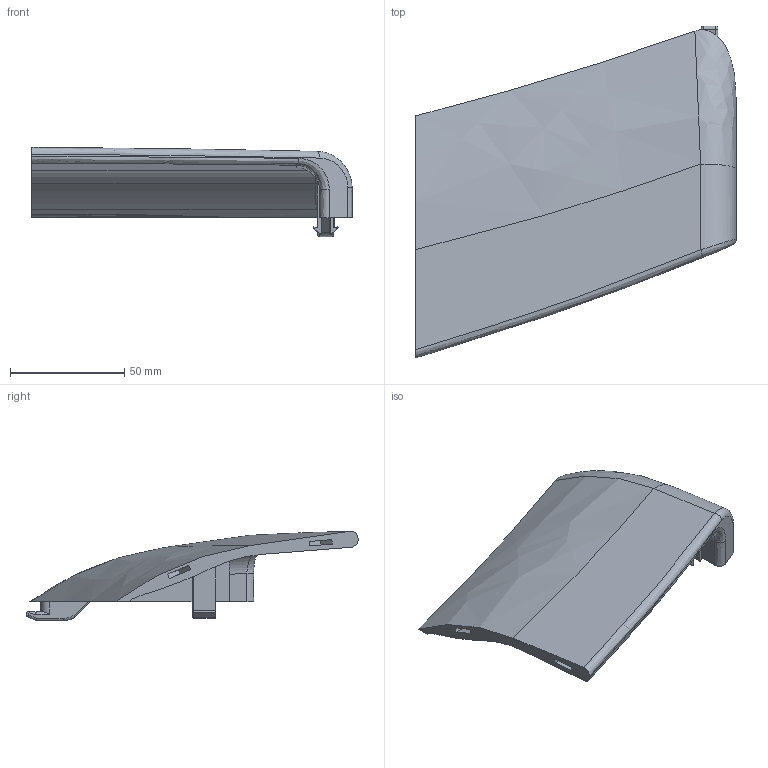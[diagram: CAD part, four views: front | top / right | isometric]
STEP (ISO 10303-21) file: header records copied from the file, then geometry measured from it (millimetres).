
FILE_DESCRIPTION(/* description */ (''),/* implementation_level */ '2;1');
FILE_NAME(/* name */ 'Snow_cap_regular_left_out.step',/* time_stamp */ '2025-12-14T00:29:28+02:00',/* author */ (''),/* organization */ (''),/* preprocessor_version */ 'ST-DEVELOPER v20.1',/* originating_system */ 'Autodesk Translation Framework v14.21.0.0',/* authorisation */ '');
FILE_SCHEMA (('AUTOMOTIVE_DESIGN { 1 0 10303 214 3 1 1 }'));
Length unit declared in the file: millimetre
Products named in the file (1): Snow_cap_regular
Bounding box: 140.1 x 145.23 x 39.07 mm (x, y, z)
Volume: 92146.1 mm3; surface area: 35844 mm2
Topology: 1 solids, 1 shells, 117 faces, 294 edges, 180 vertices
Faces by surface type: cylinder 43, plane 40, bspline 19, torus 13, sphere 2
Entity records: 4291 total; most frequent: CARTESIAN_POINT 1547, ORIENTED_EDGE 586, DIRECTION 541, EDGE_CURVE 293, AXIS2_PLACEMENT_3D 199, VERTEX_POINT 180, LINE 143, VECTOR 143
